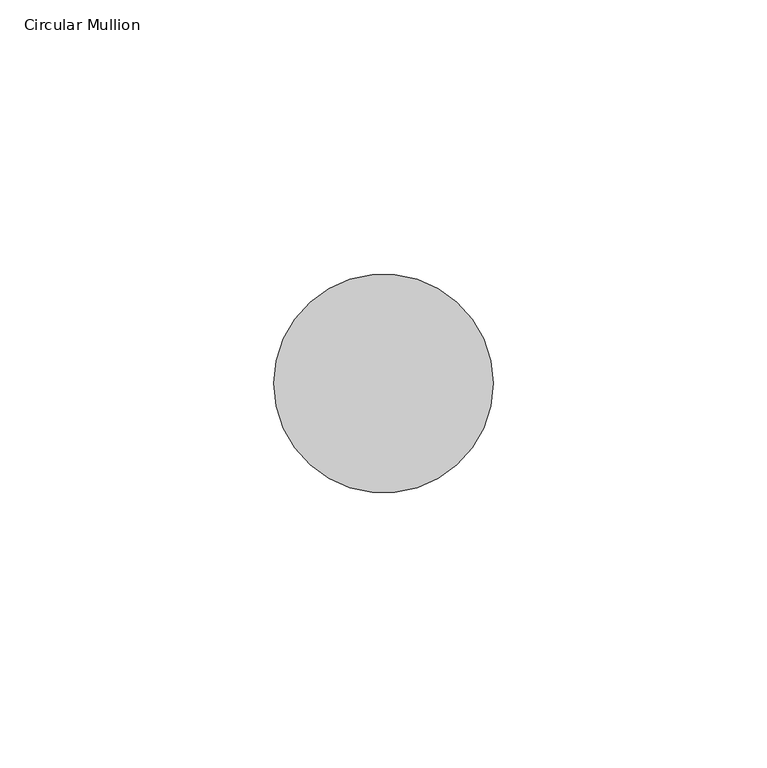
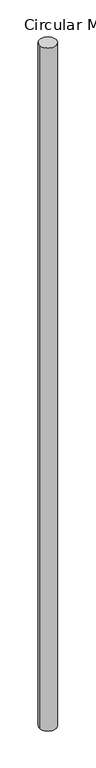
"""IFC4 building model written with IfcOpenShell, lengths in millimetres: member geometry, Circular Mullion : GRADIL 40mm."""

from ifc_helpers import new_model, si_unit, point, frame, origin, origin_2d, place, context, project, spatial, circle_curve, trimmed, segment, composite_curve, outline, extrude, source, transform, mapped, element, save


def circular_mullion_45f145e4(model_context):
    return source(origin(), model_context, "Body", "SweptSolid", [
        extrude(outline(composite_curve([segment(trimmed(circle_curve(origin_2d(), 20.0), [point((20.0, 0.0))], [point((-20.0, 0.0))], False, "CARTESIAN"), True, "CONTINUOUS"), segment(trimmed(circle_curve(origin_2d(), 20.0), [point((-20.0, 0.0))], [point((20.0, 0.0))], False, "CARTESIAN"), True, "CONTINUOUS")], self_intersect=False)), frame((0.0, 0.0, -1713.2295207), z_axis=(0.0, 0.0, 1.0), x_axis=(1.0, 0.0, 0.0)), (0.0, 0.0, 1.0), 1713.2295207),
    ])


if __name__ == "__main__":
    model = new_model("IFC4")
    model_context = context("Model", 3, world=origin())
    ifc_project = project(units=[si_unit("LENGTHUNIT", "METRE", prefix="MILLI")], contexts=[model_context])
    site = spatial("IfcSite", under=ifc_project)
    building = spatial("IfcBuilding", under=site)
    placement = place(None, origin())
    circular_mullion_shape = circular_mullion_45f145e4(model_context)
    element("IfcMember", 1, ObjectType="Circular Mullion : GRADIL 40mm", at=placement, inside=building, context=model_context, shape_type="MappedRepresentation", body=[
        mapped(circular_mullion_shape, transform((0.0, 0.0, 0.0), x_axis=(1.0, 0.0, 0.0), y_axis=(0.0, 1.0, 0.0), z_axis=(0.0, 0.0, 1.0))),
    ])
    save(model, "model.ifc")
